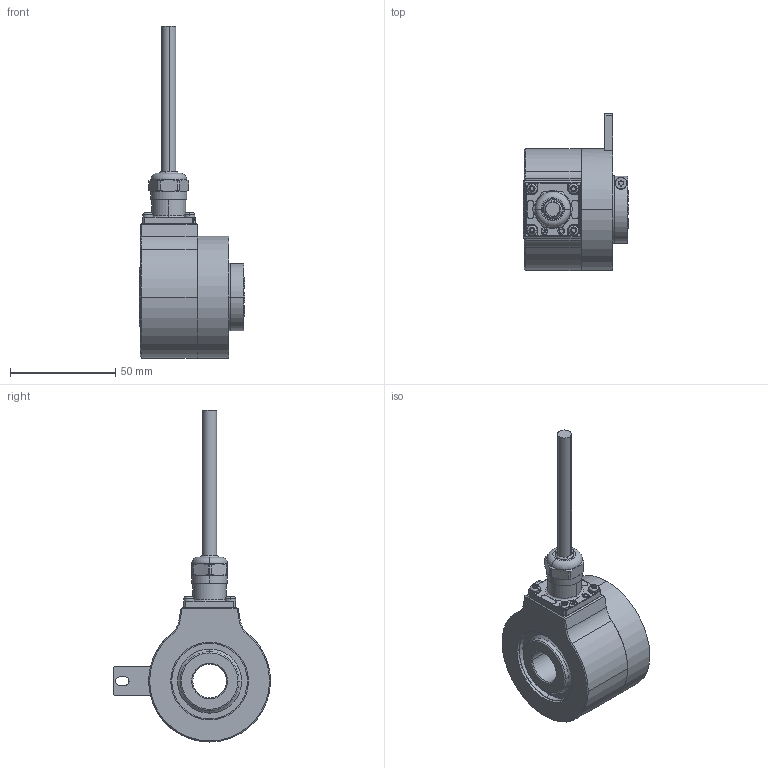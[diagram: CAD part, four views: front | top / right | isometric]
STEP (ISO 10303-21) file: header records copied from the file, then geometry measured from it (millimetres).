
FILE_DESCRIPTION (( 'STEP AP203' ), '1' );
FILE_NAME ('K58I.OXX.XXXXX.XH17516.XXR11.XXXX.step', '2025-12-03T08:59:14', ( '' ), ( '' ), 'SwSTEP 2.0', 'SolidWorks 2021', '' );
FILE_SCHEMA (( 'CONFIG_CONTROL_DESIGN' ));
Length unit declared in the file: millimetre
Products named in the file (1): K58I.OXX.XXXXX.XH17516.XXR11.XXXX
Bounding box: 50 x 74.75 x 158 mm (x, y, z)
Volume: 121980.8 mm3; surface area: 43650.1 mm2
Topology: 10 solids, 10 shells, 661 faces, 1685 edges, 1057 vertices
Faces by surface type: cylinder 267, plane 227, cone 76, bspline 40, torus 35, sphere 16
Entity records: 21921 total; most frequent: CARTESIAN_POINT 5871, DIRECTION 3418, ORIENTED_EDGE 3346, EDGE_CURVE 1673, AXIS2_PLACEMENT_3D 1306, VERTEX_POINT 1057, LINE 806, VECTOR 806
